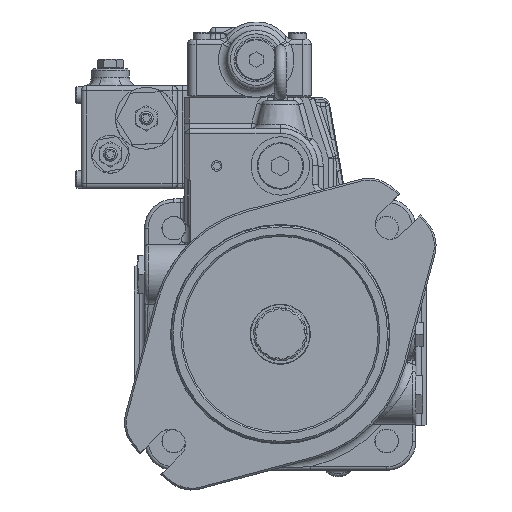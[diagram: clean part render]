
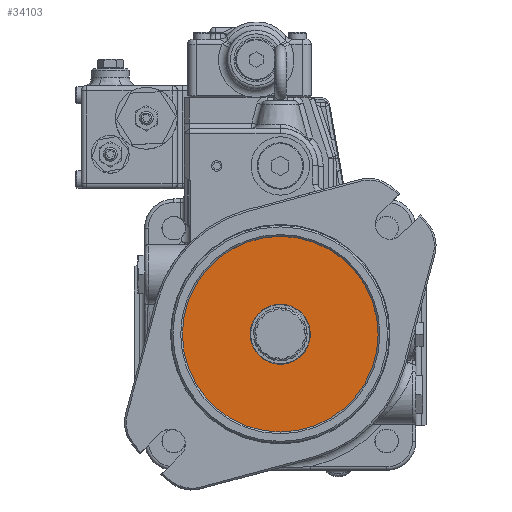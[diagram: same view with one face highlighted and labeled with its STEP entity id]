
A CAD part, top view. The second image highlights one B-rep face of the part: STEP entity #34103.
In plain terms, the highlighted planar face has unit normal (0, 0, 1).
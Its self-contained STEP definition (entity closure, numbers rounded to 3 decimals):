
#14250=CARTESIAN_POINT('',(-1.799,17.407,11.7));
#14251=VERTEX_POINT('',#14250);
#14252=CARTESIAN_POINT('',(0.,0.,11.7));
#14253=DIRECTION('',(0.,0.,-1.));
#14254=DIRECTION('',(0.103,-0.995,0.));
#14255=AXIS2_PLACEMENT_3D('',#14252,#14253,#14254);
#14256=CIRCLE('',#14255,17.5);
#14257=EDGE_CURVE('',#14251,#14251,#14256,.T.);
#34084=CARTESIAN_POINT('',(0.0,0.0,11.7));
#34085=DIRECTION('',(0.0,0.0,-1.0));
#34086=DIRECTION('',(-1.0,0.0,0.0));
#34087=AXIS2_PLACEMENT_3D('',#34084,#34085,#34086);
#34088=PLANE('',#34087);
#34089=CARTESIAN_POINT('',(57.0,0.,11.7));
#34090=VERTEX_POINT('',#34089);
#34091=CARTESIAN_POINT('',(0.0,0.0,11.7));
#34092=DIRECTION('',(0.0,0.0,1.0));
#34093=DIRECTION('',(-1.0,0.0,0.0));
#34094=AXIS2_PLACEMENT_3D('',#34091,#34092,#34093);
#34095=CIRCLE('',#34094,57.0);
#34096=EDGE_CURVE('',#34090,#34090,#34095,.T.);
#34097=ORIENTED_EDGE('',*,*,#34096,.T.);
#34098=EDGE_LOOP('',(#34097));
#34099=FACE_OUTER_BOUND('',#34098,.T.);
#34100=ORIENTED_EDGE('',*,*,#14257,.T.);
#34101=EDGE_LOOP('',(#34100));
#34102=FACE_BOUND('',#34101,.T.);
#34103=ADVANCED_FACE('',(#34099,#34102),#34088,.F.);
